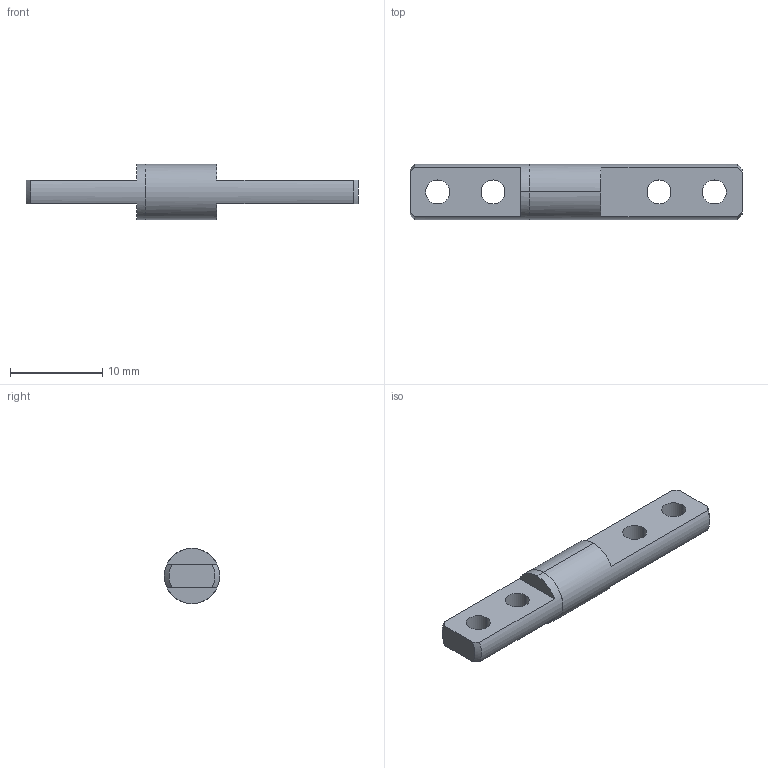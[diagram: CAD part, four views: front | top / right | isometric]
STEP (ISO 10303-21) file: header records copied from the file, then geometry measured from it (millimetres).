
FILE_DESCRIPTION (( 'STEP AP203' ), '1' );
FILE_NAME ('XG11-076-3通孔.STEP', '2025-07-23T08:03:59', ( '微软用户' ), ( '微软中国' ), 'SwSTEP 2.0', 'SolidWorks 2024', '' );
FILE_SCHEMA (( 'CONFIG_CONTROL_DESIGN' ));
Length unit declared in the file: millimetre
Products named in the file (1): XG11-076-3通孔
Bounding box: 36 x 6 x 6 mm (x, y, z)
Volume: 601.5 mm3; surface area: 757.4 mm2
Topology: 2 solids, 2 shells, 28 faces, 72 edges, 48 vertices
Faces by surface type: cylinder 12, plane 12, cone 4
Entity records: 971 total; most frequent: CARTESIAN_POINT 173, DIRECTION 158, ORIENTED_EDGE 144, EDGE_CURVE 72, AXIS2_PLACEMENT_3D 65, VERTEX_POINT 48, CIRCLE 36, EDGE_LOOP 36
